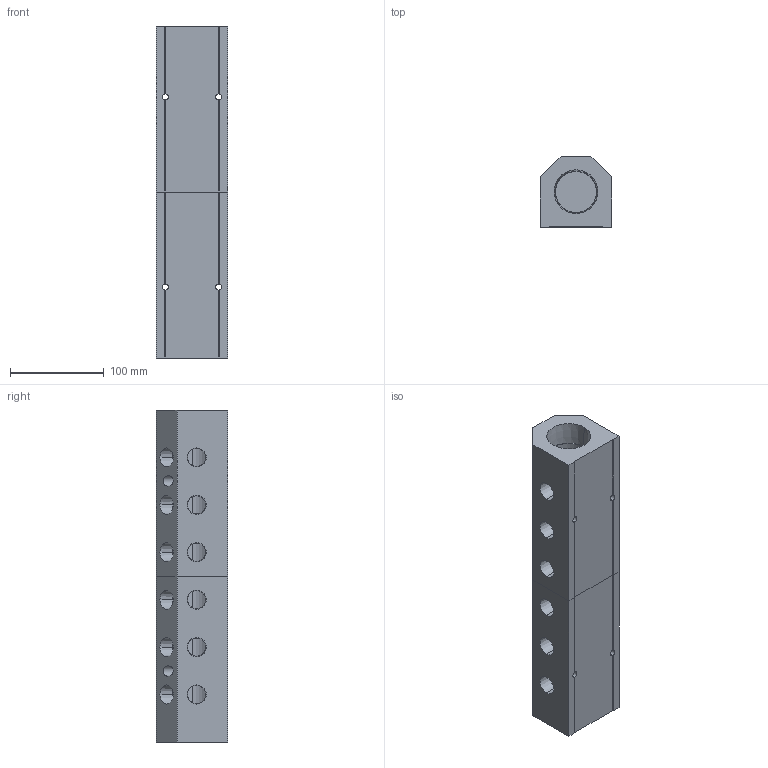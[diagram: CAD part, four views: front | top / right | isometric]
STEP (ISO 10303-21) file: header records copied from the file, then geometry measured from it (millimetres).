
FILE_DESCRIPTION (( 'STEP AP214' ), '1' );
FILE_NAME ('ALM6AB-N8N24-355RB.step', '2022-02-07T09:39:37', ( '' ), ( '' ), 'SwSTEP 2.0', 'SolidWorks 2020', '' );
FILE_SCHEMA (( 'AUTOMOTIVE_DESIGN' ));
Length unit declared in the file: millimetre
Products named in the file (1): ALM6AB-N8N24-355RB
Bounding box: 76.2 x 76.2 x 355 mm (x, y, z)
Volume: 1259096.6 mm3; surface area: 180136.1 mm2
Topology: 2 solids, 2 shells, 372 faces, 997 edges, 662 vertices
Faces by surface type: plane 236, bspline 88, cone 28, cylinder 20
Entity records: 21283 total; most frequent: CARTESIAN_POINT 9058, ORIENTED_EDGE 1994, DIRECTION 1403, EDGE_CURVE 997, LINE 705, VECTOR 705, VERTEX_POINT 662, EDGE_LOOP 437
